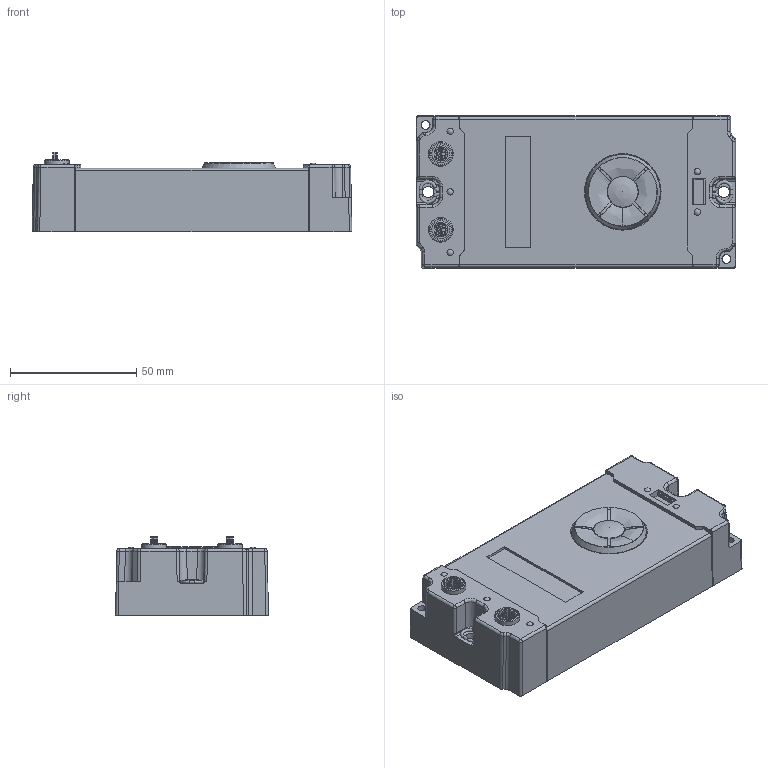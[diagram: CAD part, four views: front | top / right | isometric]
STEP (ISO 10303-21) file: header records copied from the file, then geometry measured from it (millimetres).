
FILE_DESCRIPTION(/* description */ ('EP EPP 126x60 2M8P 0'),/* implementation_level */ '2;1');
FILE_NAME(/* name */ 'C:\_Vault-Workspace\CAD-Daten\IO\EPP\vereinfachte-Daten\0000016609_EP_EPP_126x60_2M8P_0.stp',/* time_stamp */ '2023-10-04T13:26:19+02:00',/* author */ (''),/* organization */ (''),/* preprocessor_version */ 'ST-DEVELOPER v18.1',/* originating_system */ 'Autodesk Inventor 2022',/* authorisation */ '');
FILE_SCHEMA (('AUTOMOTIVE_DESIGN { 1 0 10303 214 3 1 1 }'));
Length unit declared in the file: millimetre
Products named in the file (1): 0000016609_EP_EPP_126x60_2M8P_0
Bounding box: 126.46 x 60.46 x 31.3 mm (x, y, z)
Volume: 187964.3 mm3; surface area: 27309.5 mm2
Topology: 1 solids, 1 shells, 515 faces, 1337 edges, 847 vertices
Faces by surface type: plane 202, cylinder 162, bspline 70, torus 37, cone 30, sphere 14
Full cylindrical faces by diameter (mm): 1.1 x8, 1.2 x2, 1.3 x4, 2.4 x5, 7.1 x2, 8.3 x2, 9.8 x2, 30 x1, 30.3 x1
Entity records: 17790 total; most frequent: CARTESIAN_POINT 4774, ORIENTED_EDGE 2664, DIRECTION 2495, EDGE_CURVE 1332, AXIS2_PLACEMENT_3D 902, VERTEX_POINT 847, LINE 691, VECTOR 691
